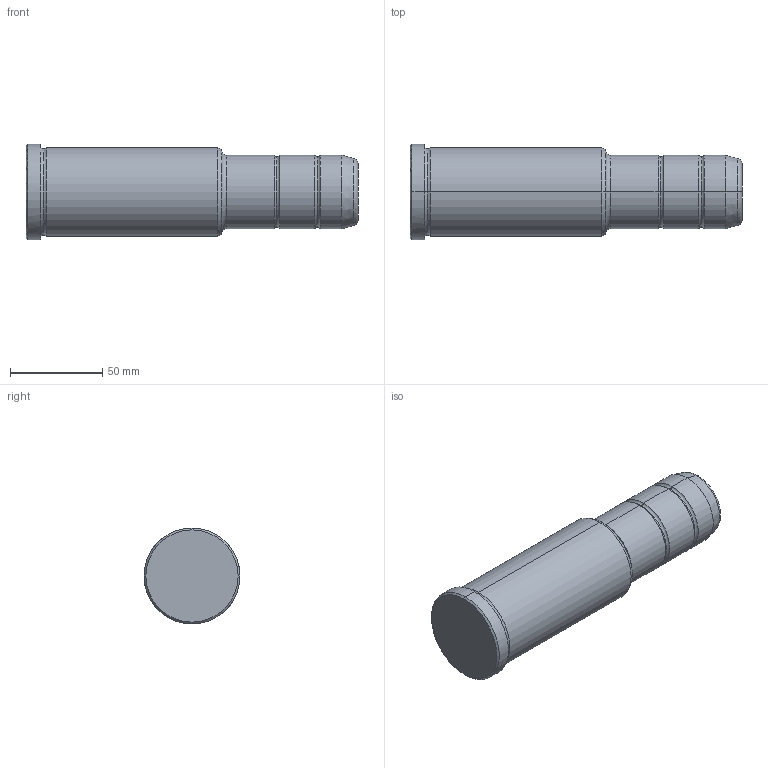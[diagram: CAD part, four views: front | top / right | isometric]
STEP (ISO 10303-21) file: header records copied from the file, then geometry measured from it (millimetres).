
FILE_DESCRIPTION(('CATIA V5 STEP Exchange'),'2;1');
FILE_NAME('C:\Users\Utente\Desktop\IO LAVORO\3D X SITO CF\X SITO\PLASTICA\351\351-40X106X180.stp','2021-10-07T14:01:55+00:00',('none'),('none'),'CATIA Version 5 Release 20 GA (IN-10)','CATIA V5 STEP AP203','none');
FILE_SCHEMA(('CONFIG_CONTROL_DESIGN'));
Length unit declared in the file: millimetre
Products named in the file (1): 351-40X106X180
Bounding box: 180 x 52 x 52 mm (x, y, z)
Volume: 285133.6 mm3; surface area: 29079.4 mm2
Topology: 1 solids, 1 shells, 36 faces, 102 edges, 70 vertices
Faces by surface type: torus 16, cylinder 10, cone 6, plane 4
Entity records: 1292 total; most frequent: CARTESIAN_POINT 321, ORIENTED_EDGE 204, DIRECTION 166, AXIS2_PLACEMENT_3D 115, EDGE_CURVE 102, CIRCLE 78, VERTEX_POINT 70, EDGE_LOOP 38
